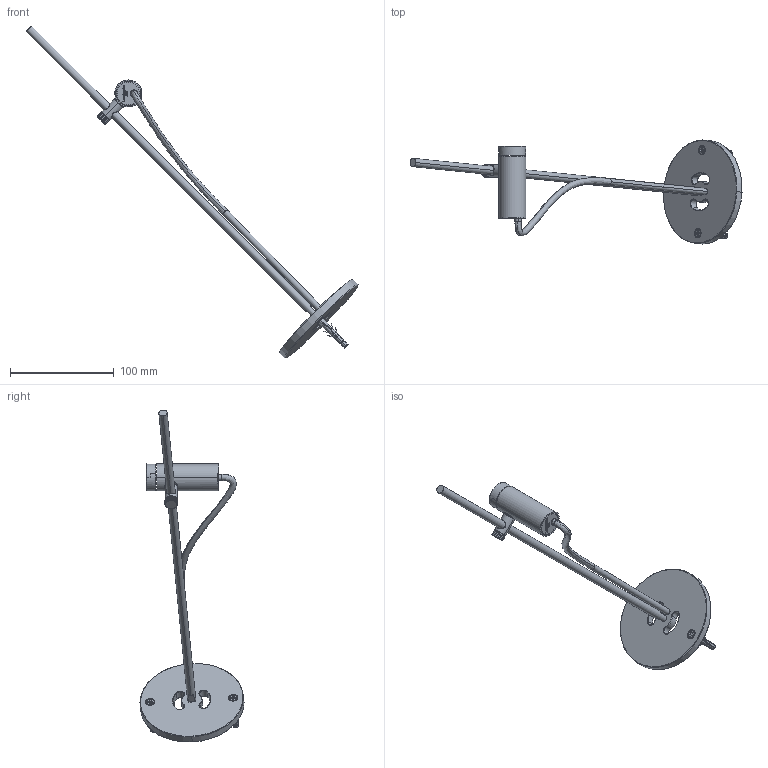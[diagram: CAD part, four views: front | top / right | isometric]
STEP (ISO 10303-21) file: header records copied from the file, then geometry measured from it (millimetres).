
FILE_DESCRIPTION((''),'2;1');
FILE_NAME('PRT0002','2025-06-27T13:27:34',('Piccioli'),(''),'CREO PARAMETRIC BY PTC INC, 2025010','CREO PARAMETRIC BY PTC INC, 2025010','');
FILE_SCHEMA(('CONFIG_CONTROL_DESIGN'));
Length unit declared in the file: millimetre
Products named in the file (1): PRT0002
Bounding box: 319.97 x 100.24 x 319.97 mm (x, y, z)
Surface area: 43256.3 mm2 (no closed solid volume)
Topology: 0 solids, 35 shells, 220 faces, 1325 edges, 1129 vertices
Faces by surface type: plane 97, cylinder 75, cone 24, bspline 14, torus 10
Entity records: 21258 total; most frequent: CARTESIAN_POINT 12369, ORIENTED_EDGE 1667, DIRECTION 1444, EDGE_CURVE 1325, VERTEX_POINT 1129, B_SPLINE_CURVE_WITH_KNOTS 587, AXIS2_PLACEMENT_3D 500, VECTOR 444
